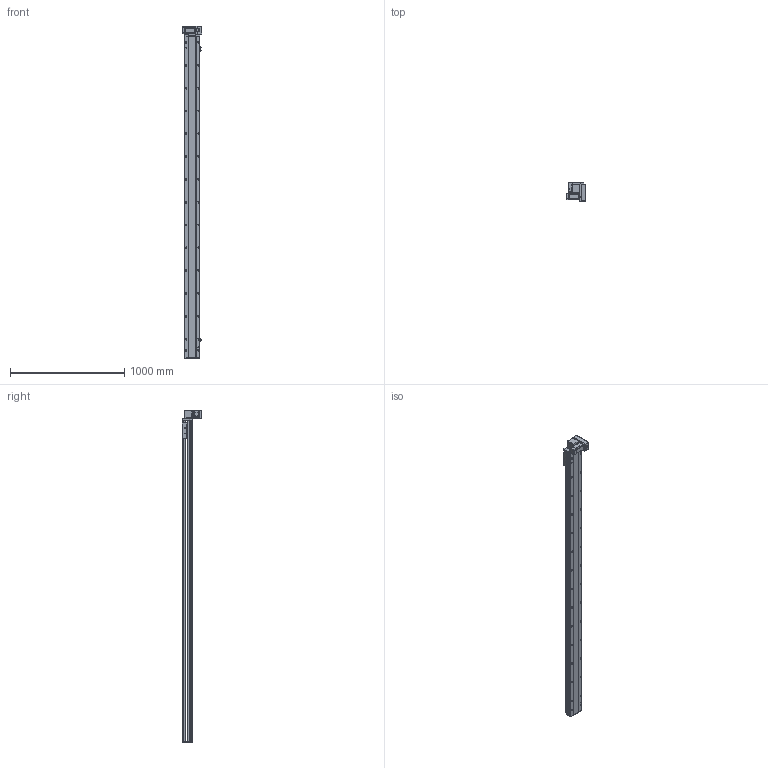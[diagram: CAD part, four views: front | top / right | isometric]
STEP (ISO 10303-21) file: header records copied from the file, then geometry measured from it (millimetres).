
FILE_DESCRIPTION (( 'STEP AP214' ), '1' );
FILE_NAME ('TPT14M-L40-2550-RD-T40-C4.STEP', '2023-03-06T07:42:16', ( '' ), ( '' ), 'SwSTEP 2.0', 'SolidWorks 2020', '' );
FILE_SCHEMA (( 'AUTOMOTIVE_DESIGN' ));
Length unit declared in the file: millimetre
Products named in the file (9): 葩璃 TPT14-L-007 々湍釱MZ-169x88^TPT14M-L40-RD-T40-C4_YTB14M; 葩璃 TPT14-L-005 賑釱MZ-135-07^TPT14M-L40-RD-T40-C4; TPT14M-L40-2550-RD-T40-C4; 葩璃 pm-t65-672^TPT14M-L40-RD-T40-C4; 葩璃 侂狟400W^TPT14M-L40-RD-T40-C4; 葩璃 TPT14-L-001 菁釱MZ-135-01^TPT14M-L40-RD-T40-C4; hexagon head bolts-full thread gb_GB_FASTENER_BOLT_STBAB A M5X16-N; 葩璃 TPT14-L-002 奻裔MZ-135-05^TPT14M-L40-RD-T40-C4; 葩璃 TPT14-L-009 萇儂啣^TPT14M-L40-RD-T40-C4_400W
Assembly tree (10 placements, depth 2):
  TPT14M-L40-2550-RD-T40-C4
    葩璃 TPT14-L-001 菁釱MZ-135-01^TPT14M-L40-RD-T40-C4
    葩璃 TPT14-L-002 奻裔MZ-135-05^TPT14M-L40-RD-T40-C4
    葩璃 TPT14-L-005 賑釱MZ-135-07^TPT14M-L40-RD-T40-C4
    葩璃 TPT14-L-007 々湍釱MZ-169x88^TPT14M-L40-RD-T40-C4_YTB14M
    葩璃 TPT14-L-009 萇儂啣^TPT14M-L40-RD-T40-C4_400W
    葩璃 pm-t65-672^TPT14M-L40-RD-T40-C4  x3
    葩璃 侂狟400W^TPT14M-L40-RD-T40-C4
    hexagon head bolts-full thread gb_GB_FASTENER_BOLT_STBAB A M5X16-N
Bounding box: 170.5 x 173.45 x 2910.5 mm (x, y, z)
Volume: 17578832.5 mm3; surface area: 2505000.1 mm2
Topology: 18 solids, 18 shells, 1584 faces, 4125 edges, 2618 vertices
Faces by surface type: plane 784, cylinder 600, cone 174, bspline 26
Entity records: 43620 total; most frequent: CARTESIAN_POINT 7922, DIRECTION 7264, ORIENTED_EDGE 6746, EDGE_CURVE 3373, AXIS2_PLACEMENT_3D 2616, VERTEX_POINT 2194, LINE 2032, VECTOR 2032
